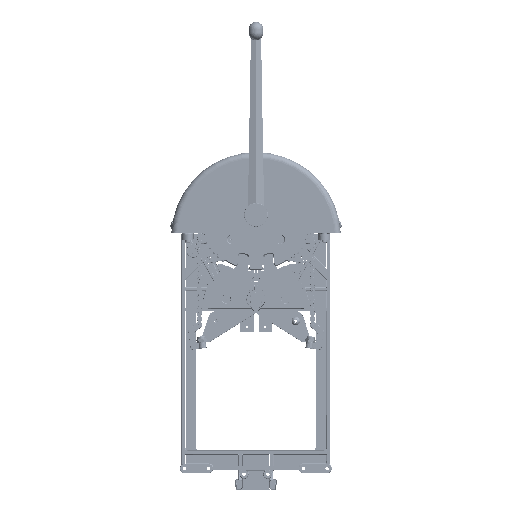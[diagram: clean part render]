
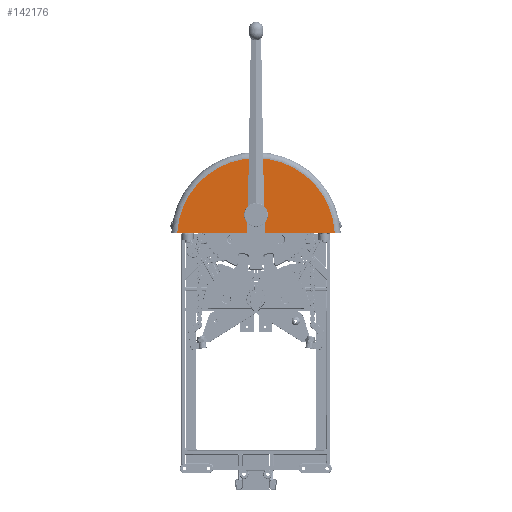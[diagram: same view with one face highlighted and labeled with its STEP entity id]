
A CAD part, top view. The second image highlights one B-rep face of the part: STEP entity #142176.
In plain terms, the highlighted planar face has unit normal (0, 0, 1).
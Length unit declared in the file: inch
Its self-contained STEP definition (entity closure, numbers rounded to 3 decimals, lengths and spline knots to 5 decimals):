
#5360 = CARTESIAN_POINT ( 'NONE',  ( 0.3845, -0.17894, 3.392 ) ) ;
#5984 = VECTOR ( 'NONE', #77760, 39.37008 ) ;
#8143 = CARTESIAN_POINT ( 'NONE',  ( -0.3845, -0.00837, 3.392 ) ) ;
#16277 = DIRECTION ( 'NONE',  ( 0., 0., 1. ) ) ;
#19975 = CARTESIAN_POINT ( 'NONE',  ( -0.3845, -0.17894, 3.392 ) ) ;
#28858 = EDGE_CURVE ( 'NONE', #96644, #38440, #54826, .T. ) ;
#30172 = DIRECTION ( 'NONE',  ( 1., 0., 0. ) ) ;
#30484 = CARTESIAN_POINT ( 'NONE',  ( 0., -0.17894, 3.392 ) ) ;
#38440 = VERTEX_POINT ( 'NONE', #76347 ) ;
#39355 = VECTOR ( 'NONE', #77328, 39.37008 ) ;
#44584 = DIRECTION ( 'NONE',  ( -1., 0., 0. ) ) ;
#44880 = CARTESIAN_POINT ( 'NONE',  ( 0.3845, 0.72413, 3.392 ) ) ;
#50208 = VERTEX_POINT ( 'NONE', #44880 ) ;
#54826 = CIRCLE ( 'NONE', #76036, 3.32058 ) ;
#58195 = ORIENTED_EDGE ( 'NONE', *, *, #28858, .T. ) ;
#59575 = DIRECTION ( 'NONE',  ( 0., 0., 1. ) ) ;
#60292 = CARTESIAN_POINT ( 'NONE',  ( 3.31619, -0.00837, 3.392 ) ) ;
#60621 = DIRECTION ( 'NONE',  ( -1., 0., 0. ) ) ;
#60810 = EDGE_CURVE ( 'NONE', #50208, #76502, #133081, .T. ) ;
#64335 = ORIENTED_EDGE ( 'NONE', *, *, #98335, .F. ) ;
#67454 = PLANE ( 'NONE',  #96342 ) ;
#74090 = DIRECTION ( 'NONE',  ( 1., 0., 0. ) ) ;
#76036 = AXIS2_PLACEMENT_3D ( 'NONE', #30484, #16277, #74090 ) ;
#76347 = CARTESIAN_POINT ( 'NONE',  ( -3.31619, -0.00837, 3.392 ) ) ;
#76502 = VERTEX_POINT ( 'NONE', #118973 ) ;
#77328 = DIRECTION ( 'NONE',  ( 0., 1., 0. ) ) ;
#77760 = DIRECTION ( 'NONE',  ( 0., -1., 0. ) ) ;
#91950 = CARTESIAN_POINT ( 'NONE',  ( 0.3845, -0.00837, 3.392 ) ) ;
#93277 = VECTOR ( 'NONE', #44584, 39.37008 ) ;
#95870 = CARTESIAN_POINT ( 'NONE',  ( 0., -0.17894, 3.392 ) ) ;
#96342 = AXIS2_PLACEMENT_3D ( 'NONE', #95870, #108181, #125178 ) ;
#96644 = VERTEX_POINT ( 'NONE', #60292 ) ;
#98335 = EDGE_CURVE ( 'NONE', #115539, #38440, #146748, .T. ) ;
#102950 = LINE ( 'NONE', #5360, #39355 ) ;
#105084 = CARTESIAN_POINT ( 'NONE',  ( 3.5665, -0.00837, 3.392 ) ) ;
#108181 = DIRECTION ( 'NONE',  ( 0., 0., 1. ) ) ;
#110048 = FACE_OUTER_BOUND ( 'NONE', #130585, .T. ) ;
#115539 = VERTEX_POINT ( 'NONE', #8143 ) ;
#116558 = LINE ( 'NONE', #174371, #93277 ) ;
#118973 = CARTESIAN_POINT ( 'NONE',  ( -0.3845, 0.72413, 3.392 ) ) ;
#122058 = VECTOR ( 'NONE', #60621, 39.37008 ) ;
#125178 = DIRECTION ( 'NONE',  ( 1., 0., 0. ) ) ;
#127018 = AXIS2_PLACEMENT_3D ( 'NONE', #164408, #59575, #30172 ) ;
#130585 = EDGE_LOOP ( 'NONE', ( #136639, #172838, #169399, #158358, #58195, #64335 ) ) ;
#131352 = VERTEX_POINT ( 'NONE', #91950 ) ;
#133081 = CIRCLE ( 'NONE', #127018, 0.3845 ) ;
#133314 = EDGE_CURVE ( 'NONE', #131352, #50208, #102950, .T. ) ;
#136639 = ORIENTED_EDGE ( 'NONE', *, *, #172219, .F. ) ;
#142176 = ADVANCED_FACE ( 'NONE', ( #110048 ), #67454, .T. ) ;
#146748 = LINE ( 'NONE', #105084, #122058 ) ;
#149726 = LINE ( 'NONE', #19975, #5984 ) ;
#158358 = ORIENTED_EDGE ( 'NONE', *, *, #183636, .F. ) ;
#164408 = CARTESIAN_POINT ( 'NONE',  ( 0., 0.72413, 3.392 ) ) ;
#169399 = ORIENTED_EDGE ( 'NONE', *, *, #133314, .F. ) ;
#172219 = EDGE_CURVE ( 'NONE', #76502, #115539, #149726, .T. ) ;
#172838 = ORIENTED_EDGE ( 'NONE', *, *, #60810, .F. ) ;
#174371 = CARTESIAN_POINT ( 'NONE',  ( 3.5665, -0.00837, 3.392 ) ) ;
#183636 = EDGE_CURVE ( 'NONE', #96644, #131352, #116558, .T. ) ;
